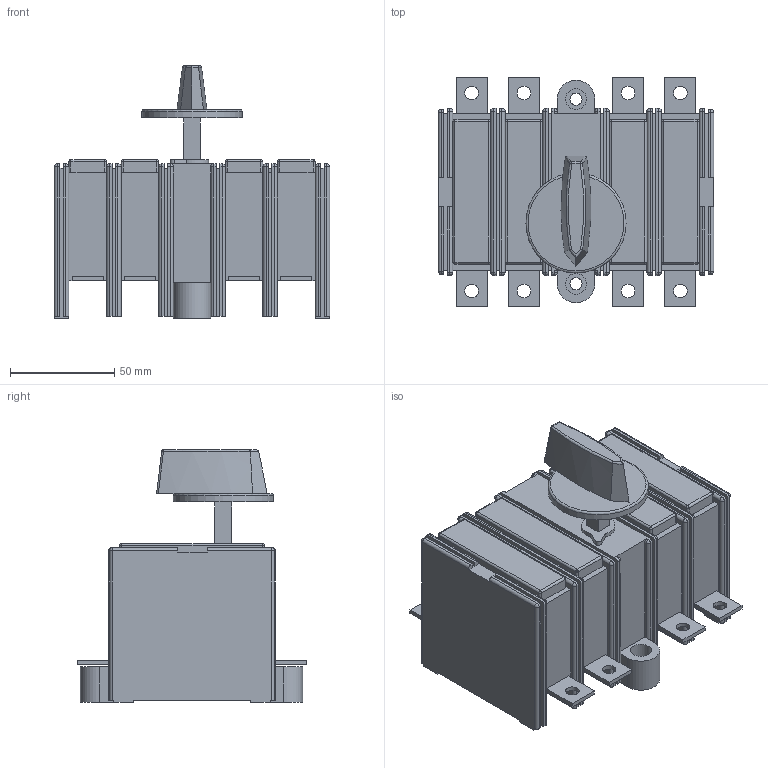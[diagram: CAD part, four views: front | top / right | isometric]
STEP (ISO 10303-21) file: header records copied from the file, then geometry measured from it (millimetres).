
FILE_DESCRIPTION(/* description */ (''),/* implementation_level */ '2;1');
FILE_NAME(/* name */ 'RA100 P3 N-R, RA100 P4-R.stp',/* time_stamp */ '2021-08-17T10:25:58+02:00',/* author */ (''),/* organization */ (''),/* preprocessor_version */ 'ST-DEVELOPER v18.1',/* originating_system */ 'SIEMENS PLM Software NX 1965',/* authorisation */ '');
FILE_SCHEMA (('AUTOMOTIVE_DESIGN { 1 0 10303 214 3 1 1 1 }'));
Length unit declared in the file: millimetre
Products named in the file (1): RA100 P3 N-R,  RA100 P4-R_stp
Bounding box: 132 x 110 x 121 mm (x, y, z)
Volume: 677112.7 mm3; surface area: 83822.8 mm2
Topology: 1 solids, 1 shells, 386 faces, 1030 edges, 609 vertices
Faces by surface type: plane 219, cylinder 118, sphere 41, bspline 7, torus 1
Full cylindrical faces by diameter (mm): 5.8 x2, 6.5 x8, 10 x2, 48 x1
Entity records: 11591 total; most frequent: CARTESIAN_POINT 2189, DIRECTION 1942, ORIENTED_EDGE 1940, EDGE_CURVE 970, LINE 712, VECTOR 712, AXIS2_PLACEMENT_3D 615, VERTEX_POINT 605
